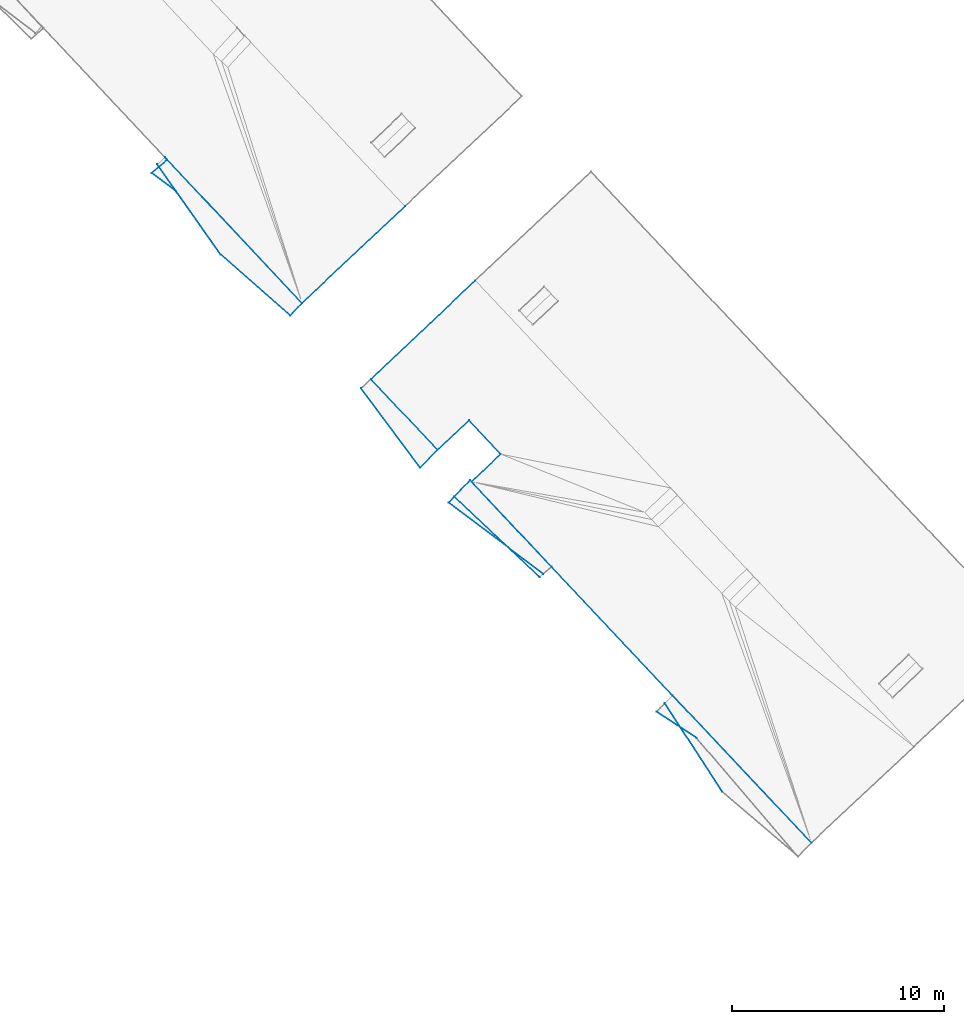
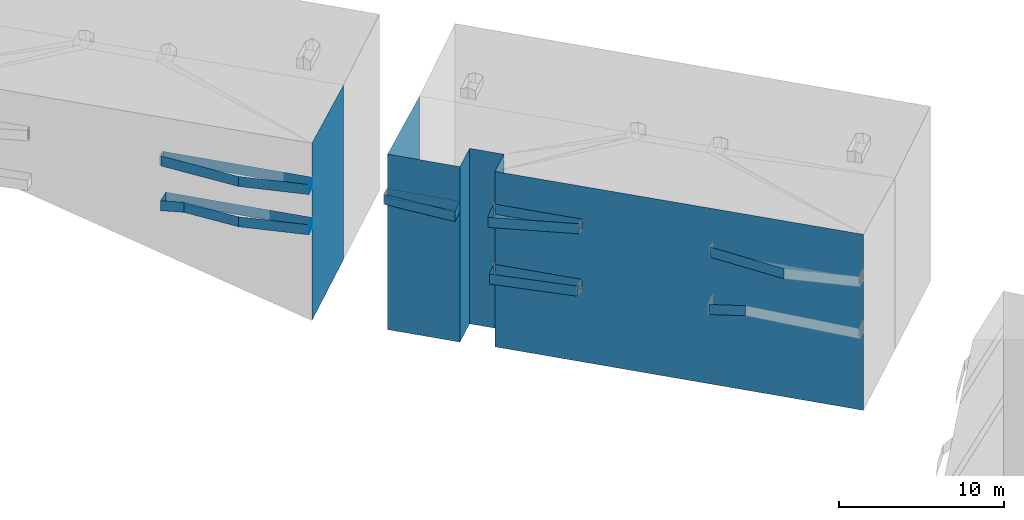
# Not in any storey, part 49 of 136: 48 walls.
"""IFC4 building model written with IfcOpenShell, lengths in metres."""

from ifc_helpers import new_model, entity, si_unit, converted_unit, frame, origin, place, context, subcontext, project, spatial, face_set, surface_model, element, save


model = new_model("IFC4")

# Units and contexts
model_context = context("Model", 3, precision=1e-05, world=origin())
body_context = subcontext(model_context, "Body", "Model", "MODEL_VIEW")
ifc_project = project(units=[converted_unit("PLANEANGLEUNIT", "DEGREE", entity("IfcRatioMeasure", 0.0174532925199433), si_unit("PLANEANGLEUNIT", "RADIAN"), dimensions=[0, 0, 0, 0, 0, 0, 0]), si_unit("AREAUNIT", "SQUARE_METRE"), si_unit("LENGTHUNIT", "METRE")], contexts=[model_context])

# Site, building
site_placement = place(None, origin())
site = spatial("IfcSite", under=ifc_project, at=site_placement, Name="_site")
building_1_placement = place(site_placement, origin())
building_1 = spatial("IfcBuilding", under=site, at=building_1_placement, Name="_building")

# Walls
for number, where, name in (
    (1, (0.0, 0.0, 0.0), "Wall"),
    (2, (0.0, 0.0, 0.0), "Wall"),
):
    element("IfcWall", number, at=place(building_1_placement, frame(where)), inside=building_1, Name=name, PredefinedType="NOTDEFINED", context=body_context, shape_type="SurfaceModel", body=[
        surface_model("IfcFaceBasedSurfaceModel", [(34.74, 89.67, 43.92), (32.86, 90.9, 43.92), (32.86, 90.9, 44.67), (34.74, 89.67, 44.67)], [face_set([[[0, 1, 2, 3]]])]),
    ])
wall_1_placement = place(building_1_placement, origin())
element("IfcWall", 3, at=wall_1_placement, inside=building_1, Name="Wall", PredefinedType="NOTDEFINED", context=body_context, shape_type="SurfaceModel", body=[
    surface_model("IfcFaceBasedSurfaceModel", [(19.39, 106.59, 47.72), (22.53, 103.25, 47.72), (22.53, 103.25, 48.47), (19.39, 106.59, 48.47)], [face_set([[[0, 1, 2, 3]]])]),
])
wall_2_placement = place(building_1_placement, origin())
element("IfcWall", 4, at=wall_2_placement, inside=building_1, Name="Wall", PredefinedType="NOTDEFINED", context=body_context, shape_type="SurfaceModel", body=[
    surface_model("IfcFaceBasedSurfaceModel", [(21.71, 102.42, 47.72), (18.92, 106.15, 47.72), (18.92, 106.15, 48.47), (21.71, 102.42, 48.47)], [face_set([[[0, 1, 2, 3]]])]),
])
wall_3_placement = place(building_1_placement, origin())
element("IfcWall", 5, at=wall_3_placement, inside=building_1, Name="Wall", PredefinedType="NOTDEFINED", context=body_context, shape_type="SurfaceModel", body=[
    surface_model("IfcFaceBasedSurfaceModel", [(22.53, 103.25, 47.72), (21.71, 102.42, 47.72), (21.71, 102.42, 48.47), (22.53, 103.25, 48.47)], [face_set([[[0, 1, 2, 3]]])]),
])
wall_4_placement = place(building_1_placement, origin())
element("IfcWall", 6, at=wall_4_placement, inside=building_1, Name="Wall", PredefinedType="NOTDEFINED", context=body_context, shape_type="SurfaceModel", body=[
    surface_model("IfcFaceBasedSurfaceModel", [(19.39, 106.59, 47.72), (22.53, 103.25, 47.72), (22.53, 103.25, 48.47), (19.39, 106.59, 48.47)], [face_set([[[0, 1, 2, 3]]])]),
])
wall_5_placement = place(building_1_placement, origin())
element("IfcWall", 7, at=wall_5_placement, inside=building_1, Name="Wall", PredefinedType="NOTDEFINED", context=body_context, shape_type="SurfaceModel", body=[
    surface_model("IfcFaceBasedSurfaceModel", [(21.71, 102.42, 47.72), (18.92, 106.15, 47.72), (18.92, 106.15, 48.47), (21.71, 102.42, 48.47)], [face_set([[[0, 1, 2, 3]]])]),
])
wall_6_placement = place(building_1_placement, origin())
element("IfcWall", 8, at=wall_6_placement, inside=building_1, Name="Wall", PredefinedType="NOTDEFINED", context=body_context, shape_type="SurfaceModel", body=[
    surface_model("IfcFaceBasedSurfaceModel", [(22.53, 103.25, 47.72), (21.71, 102.42, 47.72), (21.71, 102.42, 48.47), (22.53, 103.25, 48.47)], [face_set([[[0, 1, 2, 3]]])]),
])
wall_7_placement = place(building_1_placement, origin())
element("IfcWall", 9, at=wall_7_placement, inside=building_1, Name="Wall", PredefinedType="NOTDEFINED", context=body_context, shape_type="SurfaceModel", body=[
    surface_model("IfcFaceBasedSurfaceModel", [(27.33, 97.24, 43.37), (23.32, 101.04, 43.37), (23.32, 101.04, 44.12), (27.33, 97.24, 44.12)], [face_set([[[0, 1, 2, 3]]])]),
])
wall_8_placement = place(building_1_placement, origin())
element("IfcWall", 10, at=wall_8_placement, inside=building_1, Name="Wall", PredefinedType="NOTDEFINED", context=body_context, shape_type="SurfaceModel", body=[
    surface_model("IfcFaceBasedSurfaceModel", [(24.13, 101.75, 43.37), (27.9, 97.74, 43.37), (27.9, 97.74, 44.12), (24.13, 101.75, 44.12)], [face_set([[[0, 1, 2, 3]]])]),
])
wall_9_placement = place(building_1_placement, origin())
element("IfcWall", 11, at=wall_9_placement, inside=building_1, Name="Wall", PredefinedType="NOTDEFINED", context=body_context, shape_type="SurfaceModel", body=[
    surface_model("IfcFaceBasedSurfaceModel", [(23.32, 101.04, 43.37), (24.07, 101.83, 43.37), (24.07, 101.83, 44.12), (23.32, 101.04, 44.12)], [face_set([[[0, 1, 2, 3]]])]),
])
wall_10_placement = place(building_1_placement, origin())
element("IfcWall", 12, at=wall_10_placement, inside=building_1, Name="Wall", PredefinedType="NOTDEFINED", context=body_context, shape_type="SurfaceModel", body=[
    surface_model("IfcFaceBasedSurfaceModel", [(27.33, 97.24, 43.37), (23.32, 101.04, 43.37), (23.32, 101.04, 44.12), (27.33, 97.24, 44.12)], [face_set([[[0, 1, 2, 3]]])]),
])
for number, where, name in (
    (13, (0.0, 0.0, 0.0), "Wall"),
    (14, (0.0, 0.0, 0.0), "Wall"),
):
    element("IfcWall", number, at=place(building_1_placement, frame(where)), inside=building_1, Name=name, PredefinedType="NOTDEFINED", context=body_context, shape_type="SurfaceModel", body=[
        surface_model("IfcFaceBasedSurfaceModel", [(35.95, 87.13, 47.78), (33.24, 91.32, 47.78), (33.24, 91.32, 48.53), (35.95, 87.13, 48.53)], [face_set([[[0, 1, 2, 3]]])]),
    ])
wall_11_placement = place(building_1_placement, origin())
element("IfcWall", 15, at=wall_11_placement, inside=building_1, Name="Wall", PredefinedType="NOTDEFINED", context=body_context, shape_type="SurfaceModel", body=[
    surface_model("IfcFaceBasedSurfaceModel", [(23.32, 101.04, 43.37), (24.07, 101.83, 43.37), (24.07, 101.83, 44.12), (23.32, 101.04, 44.12)], [face_set([[[0, 1, 2, 3]]])]),
])
wall_12_placement = place(building_1_placement, origin())
element("IfcWall", 16, at=wall_12_placement, inside=building_1, Name="Wall", PredefinedType="NOTDEFINED", context=body_context, shape_type="SurfaceModel", body=[
    surface_model("IfcFaceBasedSurfaceModel", [(22.53, 103.25, 51.02), (19.39, 106.59, 51.02), (19.39, 106.59, 38.0), (22.53, 103.25, 38.0)], [face_set([[[0, 1, 2, 3]]])]),
])
wall_13_placement = place(building_1_placement, origin())
element("IfcWall", 17, at=wall_13_placement, inside=building_1, Name="Wall", PredefinedType="NOTDEFINED", context=body_context, shape_type="SurfaceModel", body=[
    surface_model("IfcFaceBasedSurfaceModel", [(25.51, 103.05, 51.02), (24.01, 104.64, 51.02), (24.01, 104.64, 38.0), (25.51, 103.05, 38.0)], [face_set([[[0, 1, 2, 3]]])]),
])
wall_14_placement = place(building_1_placement, origin())
element("IfcWall", 18, at=wall_14_placement, inside=building_1, Name="Wall", PredefinedType="NOTDEFINED", context=body_context, shape_type="SurfaceModel", body=[
    surface_model("IfcFaceBasedSurfaceModel", [(40.15, 84.73, 51.06), (24.13, 101.75, 51.02), (24.13, 101.75, 38.0), (40.15, 84.73, 38.0)], [face_set([[[0, 1, 2, 3]]])]),
])
wall_15_placement = place(building_1_placement, origin())
element("IfcWall", 19, at=wall_15_placement, inside=building_1, Name="Wall", PredefinedType="NOTDEFINED", context=body_context, shape_type="SurfaceModel", body=[
    surface_model("IfcFaceBasedSurfaceModel", [(24.13, 101.75, 43.37), (27.9, 97.74, 43.37), (27.9, 97.74, 44.12), (24.13, 101.75, 44.12)], [face_set([[[0, 1, 2, 3]]])]),
])
wall_16_placement = place(building_1_placement, origin())
element("IfcWall", 20, at=wall_16_placement, inside=building_1, Name="Wall", PredefinedType="NOTDEFINED", context=body_context, shape_type="SurfaceModel", body=[
    surface_model("IfcFaceBasedSurfaceModel", [(24.13, 101.75, 47.84), (27.9, 97.74, 47.84), (27.9, 97.74, 48.59), (24.13, 101.75, 48.59)], [face_set([[[0, 1, 2, 3]]])]),
])
wall_17_placement = place(building_1_placement, origin())
element("IfcWall", 21, at=wall_17_placement, inside=building_1, Name="Wall", PredefinedType="NOTDEFINED", context=body_context, shape_type="SurfaceModel", body=[
    surface_model("IfcFaceBasedSurfaceModel", [(23.05, 100.76, 47.84), (24.07, 101.83, 47.84), (24.07, 101.83, 48.59), (23.05, 100.76, 48.59)], [face_set([[[0, 1, 2, 3]]])]),
])
wall_18_placement = place(building_1_placement, origin())
element("IfcWall", 22, at=wall_18_placement, inside=building_1, Name="Wall", PredefinedType="NOTDEFINED", context=body_context, shape_type="SurfaceModel", body=[
    surface_model("IfcFaceBasedSurfaceModel", [(27.51, 97.4, 47.84), (23.05, 100.76, 47.84), (23.05, 100.76, 48.59), (27.51, 97.4, 48.59)], [face_set([[[0, 1, 2, 3]]])]),
])
wall_19_placement = place(building_1_placement, origin())
element("IfcWall", 23, at=wall_19_placement, inside=building_1, Name="Wall", PredefinedType="NOTDEFINED", context=body_context, shape_type="SurfaceModel", body=[
    surface_model("IfcFaceBasedSurfaceModel", [(24.13, 101.75, 47.84), (27.9, 97.74, 47.84), (27.9, 97.74, 48.59), (24.13, 101.75, 48.59)], [face_set([[[0, 1, 2, 3]]])]),
])
wall_20_placement = place(building_1_placement, origin())
element("IfcWall", 24, at=wall_20_placement, inside=building_1, Name="Wall", PredefinedType="NOTDEFINED", context=body_context, shape_type="SurfaceModel", body=[
    surface_model("IfcFaceBasedSurfaceModel", [(23.05, 100.76, 47.84), (24.07, 101.83, 47.84), (24.07, 101.83, 48.59), (23.05, 100.76, 48.59)], [face_set([[[0, 1, 2, 3]]])]),
])
wall_21_placement = place(building_1_placement, origin())
element("IfcWall", 25, at=wall_21_placement, inside=building_1, Name="Wall", PredefinedType="NOTDEFINED", context=body_context, shape_type="SurfaceModel", body=[
    surface_model("IfcFaceBasedSurfaceModel", [(27.51, 97.4, 47.84), (23.05, 100.76, 47.84), (23.05, 100.76, 48.59), (27.51, 97.4, 48.59)], [face_set([[[0, 1, 2, 3]]])]),
])
wall_22_placement = place(building_1_placement, origin())
element("IfcWall", 26, at=wall_22_placement, inside=building_1, Name="Wall", PredefinedType="NOTDEFINED", context=body_context, shape_type="SurfaceModel", body=[
    surface_model("IfcFaceBasedSurfaceModel", [(24.01, 104.64, 51.02), (22.53, 103.25, 51.02), (22.53, 103.25, 38.0), (24.01, 104.64, 38.0)], [face_set([[[0, 1, 2, 3]]])]),
])
wall_23_placement = place(building_1_placement, origin())
element("IfcWall", 27, at=wall_23_placement, inside=building_1, Name="Wall", PredefinedType="NOTDEFINED", context=body_context, shape_type="SurfaceModel", body=[
    surface_model("IfcFaceBasedSurfaceModel", [(19.39, 106.59, 51.02), (24.31, 111.23, 50.8), (24.31, 111.23, 37.968), (19.39, 106.59, 38.0)], [face_set([[[0, 1, 2, 3]]])]),
])
wall_24_placement = place(building_1_placement, origin())
element("IfcWall", 28, at=wall_24_placement, inside=building_1, Name="Wall", PredefinedType="NOTDEFINED", context=body_context, shape_type="SurfaceModel", body=[
    surface_model("IfcFaceBasedSurfaceModel", [(24.13, 101.75, 51.02), (25.51, 103.05, 51.02), (25.51, 103.05, 38.0), (24.13, 101.75, 38.0)], [face_set([[[0, 1, 2, 3]]])]),
])

# Building
building_2_placement = place(site_placement, origin())
building_2 = spatial("IfcBuilding", under=site, at=building_2_placement, Name="_building")

# Walls
wall_25_placement = place(building_2_placement, origin())
element("IfcWall", 29, at=wall_25_placement, inside=building_2, Name="Wall", PredefinedType="NOTDEFINED", context=body_context, shape_type="SurfaceModel", body=[
    surface_model("IfcFaceBasedSurfaceModel", [(16.14, 110.17, 44.55), (15.58, 109.58, 44.55), (15.58, 109.58, 45.3), (16.14, 110.17, 45.3)], [face_set([[[0, 1, 2, 3]]])]),
])
wall_26_placement = place(building_2_placement, origin())
element("IfcWall", 30, at=wall_26_placement, inside=building_2, Name="Wall", PredefinedType="NOTDEFINED", context=body_context, shape_type="SurfaceModel", body=[
    surface_model("IfcFaceBasedSurfaceModel", [(9.79, 116.93, 44.55), (16.14, 110.17, 44.55), (16.14, 110.17, 45.3), (9.79, 116.93, 45.3)], [face_set([[[0, 1, 2, 3]]])]),
])
wall_27_placement = place(building_2_placement, origin())
element("IfcWall", 31, at=wall_27_placement, inside=building_2, Name="Wall", PredefinedType="NOTDEFINED", context=body_context, shape_type="SurfaceModel", body=[
    surface_model("IfcFaceBasedSurfaceModel", [(9.06, 116.3, 44.55), (9.79, 116.93, 44.55), (9.79, 116.93, 45.3), (9.06, 116.3, 45.3)], [face_set([[[0, 1, 2, 3]]])]),
])
wall_28_placement = place(building_2_placement, origin())
element("IfcWall", 32, at=wall_28_placement, inside=building_2, Name="Wall", PredefinedType="NOTDEFINED", context=body_context, shape_type="SurfaceModel", body=[
    surface_model("IfcFaceBasedSurfaceModel", [(12.31, 112.46, 44.55), (10.21, 115.43, 44.55), (10.21, 115.43, 45.3), (12.31, 112.46, 45.3)], [face_set([[[0, 1, 2, 3]]])]),
])
wall_29_placement = place(building_2_placement, origin())
element("IfcWall", 33, at=wall_29_placement, inside=building_2, Name="Wall", PredefinedType="NOTDEFINED", context=body_context, shape_type="SurfaceModel", body=[
    surface_model("IfcFaceBasedSurfaceModel", [(15.58, 109.58, 44.55), (12.31, 112.46, 44.55), (12.31, 112.46, 45.3), (15.58, 109.58, 45.3)], [face_set([[[0, 1, 2, 3]]])]),
])
wall_30_placement = place(building_2_placement, origin())
element("IfcWall", 34, at=wall_30_placement, inside=building_2, Name="Wall", PredefinedType="NOTDEFINED", context=body_context, shape_type="SurfaceModel", body=[
    surface_model("IfcFaceBasedSurfaceModel", [(16.14, 110.17, 44.55), (15.58, 109.58, 44.55), (15.58, 109.58, 45.3), (16.14, 110.17, 45.3)], [face_set([[[0, 1, 2, 3]]])]),
])
wall_31_placement = place(building_2_placement, origin())
element("IfcWall", 35, at=wall_31_placement, inside=building_2, Name="Wall", PredefinedType="NOTDEFINED", context=body_context, shape_type="SurfaceModel", body=[
    surface_model("IfcFaceBasedSurfaceModel", [(9.79, 116.93, 44.55), (16.14, 110.17, 44.55), (16.14, 110.17, 45.3), (9.79, 116.93, 45.3)], [face_set([[[0, 1, 2, 3]]])]),
])
wall_32_placement = place(building_2_placement, origin())
element("IfcWall", 36, at=wall_32_placement, inside=building_2, Name="Wall", PredefinedType="NOTDEFINED", context=body_context, shape_type="SurfaceModel", body=[
    surface_model("IfcFaceBasedSurfaceModel", [(20.99, 114.73, 50.65), (16.14, 110.17, 50.8), (16.14, 110.17, 37.638), (20.99, 114.73, 37.701)], [face_set([[[0, 1, 2, 3]]])]),
])
wall_33_placement = place(building_2_placement, origin())
element("IfcWall", 37, at=wall_33_placement, inside=building_2, Name="Wall", PredefinedType="NOTDEFINED", context=body_context, shape_type="SurfaceModel", body=[
    surface_model("IfcFaceBasedSurfaceModel", [(15.58, 109.58, 44.55), (12.31, 112.46, 44.55), (12.31, 112.46, 45.3), (15.58, 109.58, 45.3)], [face_set([[[0, 1, 2, 3]]])]),
])
wall_34_placement = place(building_2_placement, origin())
element("IfcWall", 38, at=wall_34_placement, inside=building_2, Name="Wall", PredefinedType="NOTDEFINED", context=body_context, shape_type="SurfaceModel", body=[
    surface_model("IfcFaceBasedSurfaceModel", [(9.06, 116.3, 44.55), (9.79, 116.93, 44.55), (9.79, 116.93, 45.3), (9.06, 116.3, 45.3)], [face_set([[[0, 1, 2, 3]]])]),
])
for number, where, name in (
    (39, (0.0, 0.0, 0.0), "Wall"),
    (40, (0.0, 0.0, 0.0), "Wall"),
):
    element("IfcWall", number, at=place(building_2_placement, frame(where)), inside=building_2, Name=name, PredefinedType="NOTDEFINED", context=body_context, shape_type="SurfaceModel", body=[
        surface_model("IfcFaceBasedSurfaceModel", [(10.21, 115.43, 44.55), (9.06, 116.3, 44.55), (9.06, 116.3, 45.3), (10.21, 115.43, 45.3)], [face_set([[[0, 1, 2, 3]]])]),
    ])
wall_35_placement = place(building_2_placement, origin())
element("IfcWall", 41, at=wall_35_placement, inside=building_2, Name="Wall", PredefinedType="NOTDEFINED", context=body_context, shape_type="SurfaceModel", body=[
    surface_model("IfcFaceBasedSurfaceModel", [(9.68, 117.05, 47.54), (16.14, 110.17, 47.54), (16.14, 110.17, 48.29), (9.68, 117.05, 48.29)], [face_set([[[0, 1, 2, 3]]])]),
])
wall_36_placement = place(building_2_placement, origin())
element("IfcWall", 42, at=wall_36_placement, inside=building_2, Name="Wall", PredefinedType="NOTDEFINED", context=body_context, shape_type="SurfaceModel", body=[
    surface_model("IfcFaceBasedSurfaceModel", [(12.31, 112.46, 47.54), (9.31, 116.71, 47.54), (9.31, 116.71, 48.29), (12.31, 112.46, 48.29)], [face_set([[[0, 1, 2, 3]]])]),
])
wall_37_placement = place(building_2_placement, origin())
element("IfcWall", 43, at=wall_37_placement, inside=building_2, Name="Wall", PredefinedType="NOTDEFINED", context=body_context, shape_type="SurfaceModel", body=[
    surface_model("IfcFaceBasedSurfaceModel", [(15.58, 109.58, 47.54), (12.31, 112.46, 47.54), (12.31, 112.46, 48.29), (15.58, 109.58, 48.29)], [face_set([[[0, 1, 2, 3]]])]),
])
wall_38_placement = place(building_2_placement, origin())
element("IfcWall", 44, at=wall_38_placement, inside=building_2, Name="Wall", PredefinedType="NOTDEFINED", context=body_context, shape_type="SurfaceModel", body=[
    surface_model("IfcFaceBasedSurfaceModel", [(16.14, 110.17, 47.54), (15.58, 109.58, 47.54), (15.58, 109.58, 48.29), (16.14, 110.17, 48.29)], [face_set([[[0, 1, 2, 3]]])]),
])
wall_39_placement = place(building_2_placement, origin())
element("IfcWall", 45, at=wall_39_placement, inside=building_2, Name="Wall", PredefinedType="NOTDEFINED", context=body_context, shape_type="SurfaceModel", body=[
    surface_model("IfcFaceBasedSurfaceModel", [(9.68, 117.05, 47.54), (16.14, 110.17, 47.54), (16.14, 110.17, 48.29), (9.68, 117.05, 48.29)], [face_set([[[0, 1, 2, 3]]])]),
])
wall_40_placement = place(building_2_placement, origin())
element("IfcWall", 46, at=wall_40_placement, inside=building_2, Name="Wall", PredefinedType="NOTDEFINED", context=body_context, shape_type="SurfaceModel", body=[
    surface_model("IfcFaceBasedSurfaceModel", [(12.31, 112.46, 47.54), (9.31, 116.71, 47.54), (9.31, 116.71, 48.29), (12.31, 112.46, 48.29)], [face_set([[[0, 1, 2, 3]]])]),
])
wall_41_placement = place(building_2_placement, origin())
element("IfcWall", 47, at=wall_41_placement, inside=building_2, Name="Wall", PredefinedType="NOTDEFINED", context=body_context, shape_type="SurfaceModel", body=[
    surface_model("IfcFaceBasedSurfaceModel", [(15.58, 109.58, 47.54), (12.31, 112.46, 47.54), (12.31, 112.46, 48.29), (15.58, 109.58, 48.29)], [face_set([[[0, 1, 2, 3]]])]),
])
wall_42_placement = place(building_2_placement, origin())
element("IfcWall", 48, at=wall_42_placement, inside=building_2, Name="Wall", PredefinedType="NOTDEFINED", context=body_context, shape_type="SurfaceModel", body=[
    surface_model("IfcFaceBasedSurfaceModel", [(16.14, 110.17, 47.54), (15.58, 109.58, 47.54), (15.58, 109.58, 48.29), (16.14, 110.17, 48.29)], [face_set([[[0, 1, 2, 3]]])]),
])

save(model, "model.ifc")
